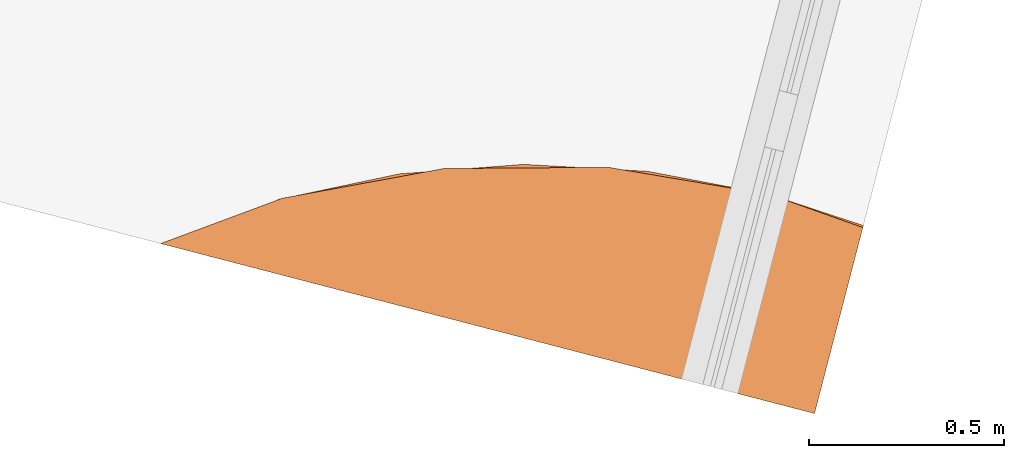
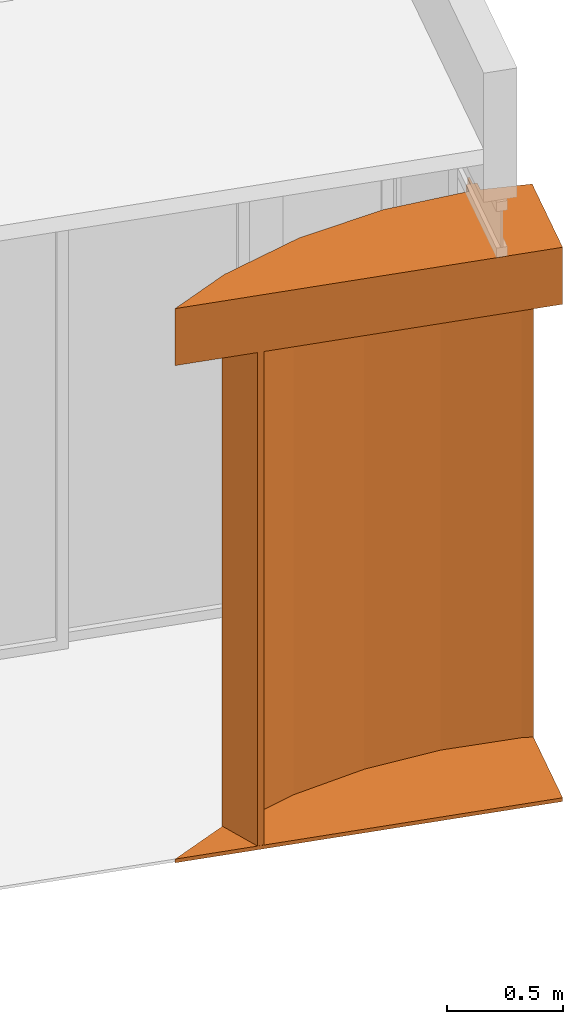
# One storey, part 9 of 9: 1 proxy.
"""IFC2X3 building model written with IfcOpenShell, lengths in millimetres."""

from ifc_helpers import new_model, entity, si_unit, converted_unit, derived_unit, direction, frame, origin, origin_with_axes, place, context, subcontext, project, spatial, faceted_brep, material, material_list, type_object, element, save


model = new_model("IFC2X3")

# Units and contexts
model_context = context("Model", 3, precision=0.01, world=origin(), true_north=direction((6.12323399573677e-17, 1.0)))
plan_context = context("Plan", 3, precision=1e-05, world=origin_with_axes())
body_context = subcontext(model_context, "Body", "Model", "MODEL_VIEW")
ifc_project = project(units=[converted_unit("PLANEANGLEUNIT", "DEGREE", entity("IfcPositiveLengthMeasure", 0.0174532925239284), si_unit("PLANEANGLEUNIT", "RADIAN"), dimensions=[0, 0, 0, 0, 0, 0, 0]), si_unit("AREAUNIT", "SQUARE_METRE"), si_unit("LENGTHUNIT", "METRE", prefix="MILLI"), si_unit("MASSUNIT", "GRAM", prefix="KILO"), si_unit("POWERUNIT", "WATT"), si_unit("PRESSUREUNIT", "PASCAL", prefix="KILO"), si_unit("FORCEUNIT", "NEWTON", prefix="KILO"), si_unit("ELECTRICVOLTAGEUNIT", "VOLT"), si_unit("ELECTRICCURRENTUNIT", "AMPERE"), si_unit("THERMODYNAMICTEMPERATUREUNIT", "DEGREE_CELSIUS"), si_unit("TIMEUNIT", "SECOND"), si_unit("VOLUMEUNIT", "CUBIC_METRE"), derived_unit("LINEARVELOCITYUNIT", [(si_unit("LENGTHUNIT", "METRE"), 1), (si_unit("TIMEUNIT", "SECOND"), -1)]), derived_unit("VOLUMETRICFLOWRATEUNIT", [(si_unit("VOLUMEUNIT", "CUBIC_METRE"), 1), (si_unit("TIMEUNIT", "SECOND"), -1)]), derived_unit("THERMALTRANSMITTANCEUNIT", [(si_unit("POWERUNIT", "WATT"), 1), (si_unit("THERMODYNAMICTEMPERATUREUNIT", "KELVIN"), -1), (si_unit("AREAUNIT", "SQUARE_METRE"), -1)]), derived_unit("SOUNDPRESSUREUNIT", [(si_unit("PRESSUREUNIT", "PASCAL"), 1)])], contexts=[model_context, plan_context])

# Site, building, storey
site_placement = place(None, frame((0.0, -2.21771188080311e-09, 0.0), z_axis=(0.0, 0.0, 1.0), x_axis=(0.266093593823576, -0.963947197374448, 0.0)))
site = spatial("IfcSite", under=ifc_project, at=site_placement, Name="ENZV", CompositionType="ELEMENT")
building_placement = place(site_placement, origin_with_axes())
building = spatial("IfcBuilding", under=site, at=building_placement, Name="ZV001", CompositionType="ELEMENT")
storey_placement = place(building_placement, frame((0.0, 0.0, 5100.0), z_axis=(0.0, 0.0, 1.0), x_axis=(1.0, 0.0, 0.0)))
storey = spatial("IfcBuildingStorey", under=building, at=storey_placement, Name="H01", CompositionType="ELEMENT", Elevation=5100.0)

# Proxy
ifc_material_1 = material(Name="Aluminium")
ifc_material_2 = material(Name="Glass")
ifc_material_3 = material(Name="<Unnamed>")
ifc_material_list = material_list([ifc_material_1, ifc_material_2, ifc_material_3])
building_element_proxy_type = type_object("IfcBuildingElementProxyType", Name="karusseldør Bund7:karusseldør Bund", PredefinedType="NOTDEFINED", material=ifc_material_list)
proxy_placement = place(storey_placement, frame((0.0, 0.0, -5100.0), z_axis=(0.0, 0.0, 1.0), x_axis=(1.0, 0.0, 0.0)))
element("IfcBuildingElementProxy", 1, at=proxy_placement, inside=storey, type_object=building_element_proxy_type, Name="karusseldør Bund7:karusseldør Bund", ObjectType="karusseldør Bund7:karusseldør Bund", context=body_context, shape_type="Brep", body=[
    faceted_brep([(-155915.922449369, 370488.078795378, 5100.0), (-155915.922449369, 370488.078795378, 7998.0), (-155890.921927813, 370531.379764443, 7998.0), (-155890.921927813, 370531.379764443, 5100.0), (-155947.213187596, 370563.880442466, 7998.0), (-155947.213187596, 370563.880442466, 5100.0), (-155957.213396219, 370546.560054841, 7998.0), (-155957.213396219, 370546.560054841, 5100.0), (-156000.514104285, 370571.560425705, 7998.0), (-156000.514104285, 370571.560425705, 5100.0), (-156005.514208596, 370562.900231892, 7998.0), (-156005.514208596, 370562.900231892, 5100.0), (-155962.21350053, 370537.899861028, 7998.0), (-155962.21350053, 370537.899861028, 5100.0), (-155972.213709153, 370520.579473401, 7998.0), (-155972.213709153, 370520.579473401, 5100.0)], [[[0, 1, 2, 3]], [[3, 2, 4, 5]], [[5, 4, 6, 7]], [[7, 6, 8, 9]], [[9, 8, 10, 11]], [[11, 10, 12, 13]], [[13, 12, 14, 15]], [[15, 14, 1, 0]], [[0, 3, 5, 7, 9, 11, 13, 15]], [[2, 1, 14, 12, 10, 8, 6, 4]]], orient=[[False], [False], [False], [False], [False], [False], [False], [False], [False], [False]]),
    faceted_brep([(-155771.72966503, 370724.014426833, 7698.0), (-155771.72966503, 370724.014426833, 7998.0), (-155916.493166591, 370517.276020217, 7998.0), (-155916.493166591, 370517.276020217, 7698.0), (-156094.772436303, 370134.966914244, 7998.0), (-156094.772436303, 370134.966914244, 7698.0), (-156203.955963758, 369727.508072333, 7998.0), (-156203.955963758, 369727.508072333, 7698.0), (-156240.726262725, 369307.279925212, 7998.0), (-156240.726262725, 369307.279925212, 7698.0), (-156211.708283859, 368975.556893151, 7998.0), (-156211.708283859, 368975.556893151, 7698.0), (-155344.550839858, 370477.356085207, 7698.0), (-155344.550839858, 370477.356085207, 7998.0)], [[[0, 1, 2, 3]], [[3, 2, 4, 5]], [[5, 4, 6, 7]], [[7, 6, 8, 9]], [[10, 11, 9, 8]], [[11, 12, 0, 3, 5, 7, 9]], [[1, 13, 10, 8, 6, 4, 2]], [[12, 11, 10, 13]], [[13, 1, 0, 12]]], orient=[[False], [False], [False], [False], [False], [False], [False], [False], [False]]),
    faceted_brep([(-156221.219213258, 369613.843336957, 5100.0), (-156221.219213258, 369613.843336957, 7698.0), (-156240.684684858, 369294.767129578, 7698.0), (-156240.684684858, 369294.767129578, 5100.0), (-155776.202783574, 370726.597260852, 5100.0), (-155776.202783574, 370726.597260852, 7698.0), (-155916.498432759, 370517.267150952, 7698.0), (-155916.498432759, 370517.267150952, 5100.0), (-156057.699456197, 370230.473145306, 7698.0), (-156057.699456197, 370230.473145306, 5100.0), (-156159.867293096, 369927.570085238, 7698.0), (-156159.867293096, 369927.570085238, 5100.0), (-156027.392341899, 369294.767129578, 7698.0), (-156027.392341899, 369294.767129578, 5100.0), (-156012.957032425, 369319.767129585, 5100.0), (-156012.957032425, 369319.767129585, 7698.0), (-156215.684347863, 369319.767129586, 7698.0), (-156215.684347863, 369319.767129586, 5100.0), (-156186.753098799, 369678.613367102, 7698.0), (-156186.753098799, 369678.613367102, 5100.0), (-156104.360374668, 370029.068896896, 7698.0), (-156104.360374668, 370029.068896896, 5100.0), (-155970.367870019, 370363.215044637, 7698.0), (-155970.367870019, 370363.215044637, 5100.0), (-155787.803195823, 370673.501652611, 7698.0), (-155787.803195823, 370673.501652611, 5100.0), (-155754.736076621, 370714.202118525, 7698.0), (-155754.736076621, 370714.202118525, 5100.0)], [[[0, 1, 2, 3]], [[4, 5, 6, 7]], [[7, 6, 8, 9]], [[9, 8, 10, 11]], [[11, 10, 1, 0]], [[12, 13, 3, 2]], [[14, 15, 16, 17]], [[17, 16, 18, 19]], [[19, 18, 20, 21]], [[21, 20, 22, 23]], [[23, 22, 24, 25]], [[26, 27, 25, 24]], [[13, 14, 17, 19, 21, 23, 25, 27, 4, 7, 9, 11, 0, 3]], [[5, 26, 24, 22, 20, 18, 16, 15, 12, 2, 1, 10, 8, 6]], [[15, 14, 13, 12]], [[27, 26, 5, 4]]], orient=[[False], [False], [False], [False], [False], [False], [False], [False], [False], [False], [False], [False], [False], [False], [False], [False]]),
    faceted_brep([(-155771.730099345, 370724.014677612, 5080.0), (-155771.730099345, 370724.014677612, 5099.5), (-155916.507740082, 370517.250778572, 5099.5), (-155916.507740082, 370517.250778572, 5080.0), (-156094.782405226, 370134.93952542, 5099.5), (-156094.782405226, 370134.93952542, 5080.0), (-156203.961025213, 369727.479368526, 5099.5), (-156203.961025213, 369727.479368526, 5080.0), (-156240.726262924, 369307.250778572, 5099.5), (-156240.726262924, 369307.250778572, 5080.0), (-156211.70700236, 368975.559112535, 5099.5), (-156211.70700236, 368975.559112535, 5080.0), (-155344.550839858, 370477.356085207, 5080.0), (-155344.550839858, 370477.356085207, 5099.5)], [[[0, 1, 2, 3]], [[3, 2, 4, 5]], [[5, 4, 6, 7]], [[7, 6, 8, 9]], [[10, 11, 9, 8]], [[11, 12, 0, 3, 5, 7, 9]], [[1, 13, 10, 8, 6, 4, 2]], [[12, 11, 10, 13]], [[13, 1, 0, 12]]], orient=[[False], [False], [False], [False], [False], [False], [False], [False], [False]]),
])

save(model, "model.ifc")
